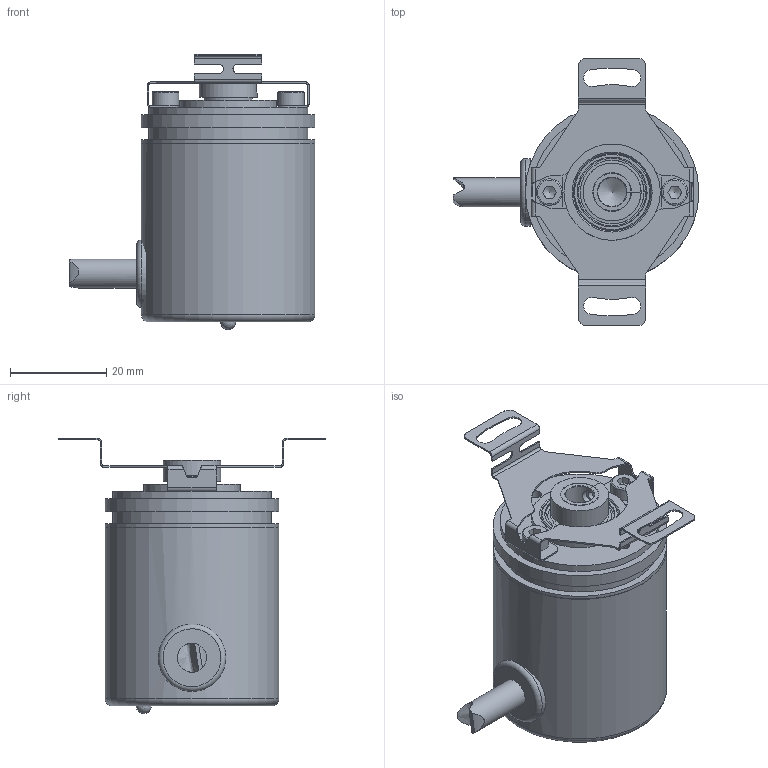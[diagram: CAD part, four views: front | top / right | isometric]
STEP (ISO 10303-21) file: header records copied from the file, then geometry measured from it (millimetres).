
FILE_DESCRIPTION (( 'STEP AP203' ), '1' );
FILE_NAME ('HTx36E H_radial.STEP', '2021-06-09T16:41:15', ( '' ), ( '' ), 'SwSTEP 2.0', 'SolidWorks 2019', '' );
FILE_SCHEMA (( 'CONFIG_CONTROL_DESIGN' ));
Length unit declared in the file: millimetre
Products named in the file (1): HTx36E H_radial
Bounding box: 51 x 55.4 x 57.09 mm (x, y, z)
Volume: 18186.6 mm3; surface area: 24910.5 mm2
Topology: 37 solids, 37 shells, 396 faces, 890 edges, 543 vertices
Faces by surface type: plane 165, cylinder 128, cone 42, torus 33, sphere 19, bspline 9
Full cylindrical faces by diameter (mm): 2.459 x7, 2.5 x1, 2.6 x1, 3 x2, 3.4 x1, 3.5 x2, 5.5 x2, 6 x3, 7.6 x1, 8 x4, 8.1 x1, 9.5 x8, 10 x4, 10.1 x4, 12 x1, 13.5 x1, 14 x6, 14.5 x8, 15.85 x1, 16 x6, 20 x1, 31.6 x1, 32 x1, 33 x2, 33.2 x1, 34 x3, 36 x3
Entity records: 11766 total; most frequent: CARTESIAN_POINT 4037, DIRECTION 1655, ORIENTED_EDGE 1276, AXIS2_PLACEMENT_3D 675, EDGE_CURVE 638, EDGE_LOOP 579, FACE_OUTER_BOUND 480, VERTEX_POINT 465
